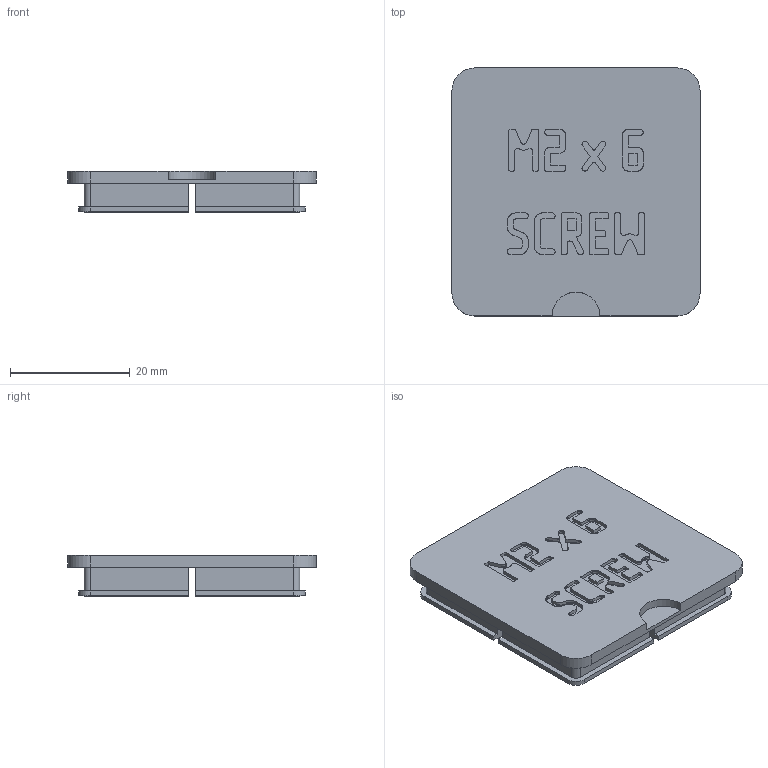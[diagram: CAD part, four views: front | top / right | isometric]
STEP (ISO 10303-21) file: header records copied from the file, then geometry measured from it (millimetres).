
FILE_DESCRIPTION(('Open CASCADE Model'),'2;1');
FILE_NAME('Open CASCADE Shape Model','2026-11-03T17:10:17',('Author'),( 'Open CASCADE'),'Open CASCADE STEP processor 8.0','build123d', 'Unknown');
FILE_SCHEMA(('AUTOMOTIVE_DESIGN { 1 0 10303 214 1 1 1 1 }'));
Products named in the file (1): COMPOUND
Bounding box: 41.5 x 41.5 x 6.9 mm (x, y, z)
Volume: 4189.1 mm3; surface area: 5533 mm2
Topology: 1 solids, 1 shells, 1125 faces, 3333 edges, 2222 vertices
Faces by surface type: plane 1104, cylinder 21
Entity records: 80120 total; most frequent: CARTESIAN_POINT 13703, DIRECTION 12097, LINE 9751, VECTOR 9751, ORIENTED_EDGE 6666, PCURVE 6666, DEFINITIONAL_REPRESENTATION 6666, EDGE_CURVE 3333
